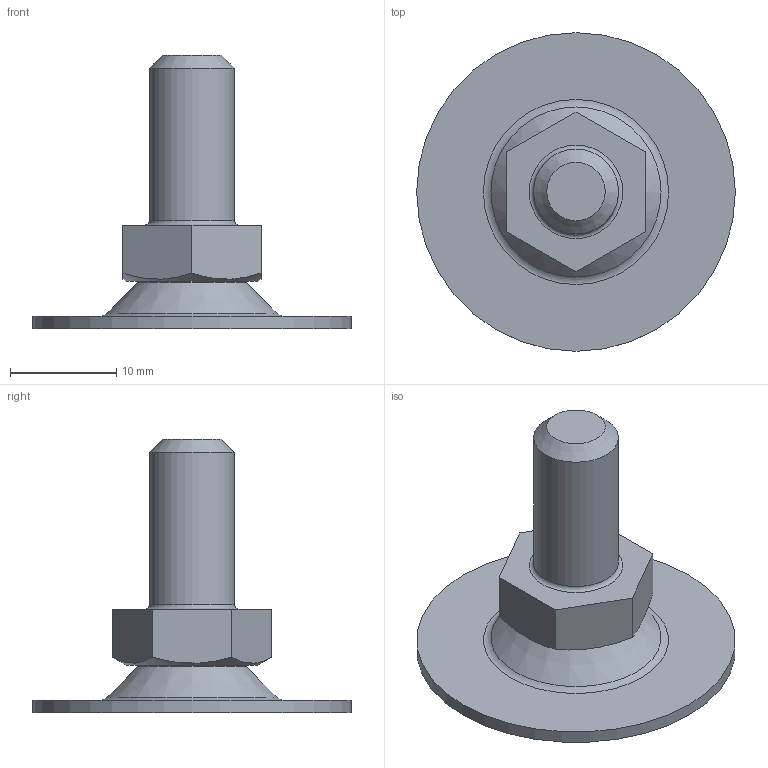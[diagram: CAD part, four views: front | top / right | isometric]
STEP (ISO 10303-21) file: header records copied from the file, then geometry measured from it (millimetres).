
FILE_DESCRIPTION(('STEP AP203'), '1');
FILE_NAME('A00050.1030816', '', ('UNSPECIFIED'), ('UNSPECIFIED'), 'C3D Converter', 'C3D Toolkit', '');
FILE_SCHEMA(('CONFIG_CONTROL_DESIGN'));
Length unit declared in the file: millimetre
Products named in the file (4): A00050.1030816; A00050.1030; А00050.ХХХХ
Assembly tree (3 placements, depth 2):
  A00050.1030816
    A00050.1030
    А00050.ХХХХ
    (unnamed)
Bounding box: 30 x 30 x 25.78 mm (x, y, z)
Volume: 2506.2 mm3; surface area: 2948.4 mm2
Topology: 3 solids, 3 shells, 58 faces, 130 edges, 82 vertices
Faces by surface type: plane 28, torus 8, bspline 8, cone 7, cylinder 6, sphere 1
Full cylindrical faces by diameter (mm): 3.3 x1, 4 x1, 4.5 x1, 8 x2, 30 x1
Entity records: 2171 total; most frequent: CARTESIAN_POINT 784, DIRECTION 242, ORIENTED_EDGE 214, EDGE_CURVE 107, AXIS2_PLACEMENT_3D 95, EDGE_LOOP 86, VERTEX_POINT 81, ADVANCED_FACE 58
